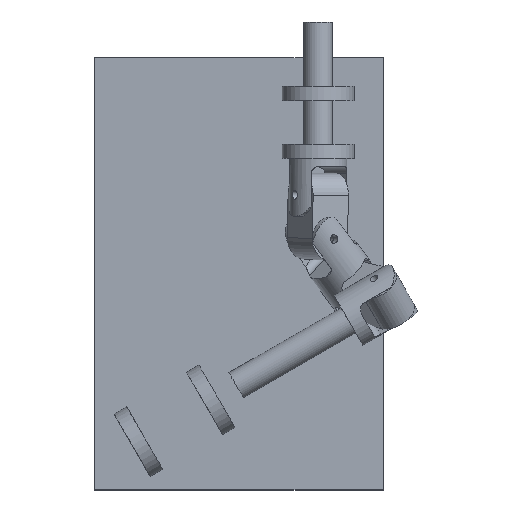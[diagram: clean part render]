
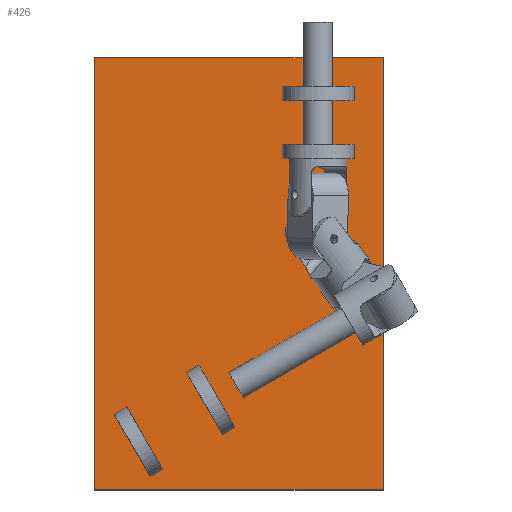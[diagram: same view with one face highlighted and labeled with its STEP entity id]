
A CAD part, top view. The second image highlights one B-rep face of the part: STEP entity #426.
In plain terms, the highlighted planar face has unit normal (0, 0, 1).
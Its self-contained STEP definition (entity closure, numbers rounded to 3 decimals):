
#426=ADVANCED_FACE('',(#625,#627,#629,#631,#633),#635,.T.);
#625=FACE_BOUND('',#626,.T.);
#626=EDGE_LOOP('',(#1500,#1501,#1502,#1503));
#627=FACE_BOUND('',#628,.T.);
#628=EDGE_LOOP('',(#1504,#1505,#1506,#1507));
#629=FACE_BOUND('',#630,.T.);
#630=EDGE_LOOP('',(#1508,#1509,#1510,#1511));
#631=FACE_BOUND('',#632,.T.);
#632=EDGE_LOOP('',(#1512,#1513,#1514,#1515));
#633=FACE_BOUND('',#634,.T.);
#634=EDGE_LOOP('',(#1516,#1517,#1518,#1519));
#635=PLANE('',#636);
#636=AXIS2_PLACEMENT_3D('',#637,#638,#639);
#637=CARTESIAN_POINT('',(0.,0.,20.));
#638=DIRECTION('',(0.,0.,1.));
#639=DIRECTION('',(0.,1.,0.));
#1500=ORIENTED_EDGE('',*,*,#1998,.T.);
#1501=ORIENTED_EDGE('',*,*,#1999,.T.);
#1502=ORIENTED_EDGE('',*,*,#2000,.T.);
#1503=ORIENTED_EDGE('',*,*,#2001,.T.);
#1504=ORIENTED_EDGE('',*,*,#1995,.F.);
#1505=ORIENTED_EDGE('',*,*,#1993,.F.);
#1506=ORIENTED_EDGE('',*,*,#1989,.F.);
#1507=ORIENTED_EDGE('',*,*,#1986,.F.);
#1508=ORIENTED_EDGE('',*,*,#1981,.F.);
#1509=ORIENTED_EDGE('',*,*,#1979,.F.);
#1510=ORIENTED_EDGE('',*,*,#1975,.F.);
#1511=ORIENTED_EDGE('',*,*,#1972,.F.);
#1512=ORIENTED_EDGE('',*,*,#2002,.F.);
#1513=ORIENTED_EDGE('',*,*,#2003,.F.);
#1514=ORIENTED_EDGE('',*,*,#2004,.F.);
#1515=ORIENTED_EDGE('',*,*,#2005,.F.);
#1516=ORIENTED_EDGE('',*,*,#2006,.F.);
#1517=ORIENTED_EDGE('',*,*,#2007,.F.);
#1518=ORIENTED_EDGE('',*,*,#2008,.F.);
#1519=ORIENTED_EDGE('',*,*,#2009,.F.);
#1972=EDGE_CURVE('',#2232,#2234,#2235,.T.);
#1975=EDGE_CURVE('',#2234,#2239,#2240,.T.);
#1979=EDGE_CURVE('',#2239,#2246,#2247,.T.);
#1981=EDGE_CURVE('',#2246,#2232,#2249,.T.);
#1986=EDGE_CURVE('',#2256,#2258,#2259,.T.);
#1989=EDGE_CURVE('',#2258,#2263,#2264,.T.);
#1993=EDGE_CURVE('',#2263,#2270,#2271,.T.);
#1995=EDGE_CURVE('',#2270,#2256,#2273,.T.);
#1998=EDGE_CURVE('',#2277,#2278,#2279,.T.);
#1999=EDGE_CURVE('',#2278,#2280,#2281,.T.);
#2000=EDGE_CURVE('',#2280,#2282,#2283,.T.);
#2001=EDGE_CURVE('',#2282,#2277,#2284,.T.);
#2002=EDGE_CURVE('',#2285,#2286,#2287,.T.);
#2003=EDGE_CURVE('',#2288,#2285,#2289,.T.);
#2004=EDGE_CURVE('',#2290,#2288,#2291,.T.);
#2005=EDGE_CURVE('',#2286,#2290,#2292,.T.);
#2006=EDGE_CURVE('',#2293,#2294,#2295,.T.);
#2007=EDGE_CURVE('',#2296,#2293,#2297,.T.);
#2008=EDGE_CURVE('',#2298,#2296,#2299,.T.);
#2009=EDGE_CURVE('',#2294,#2298,#2300,.T.);
#2232=VERTEX_POINT('',#2676);
#2234=VERTEX_POINT('',#2680);
#2235=LINE('',#2681,#2682);
#2239=VERTEX_POINT('',#2692);
#2240=LINE('',#2693,#2694);
#2246=VERTEX_POINT('',#2708);
#2247=LINE('',#2709,#2710);
#2249=LINE('',#2715,#2716);
#2256=VERTEX_POINT('',#2732);
#2258=VERTEX_POINT('',#2736);
#2259=LINE('',#2737,#2738);
#2263=VERTEX_POINT('',#2748);
#2264=LINE('',#2749,#2750);
#2270=VERTEX_POINT('',#2764);
#2271=LINE('',#2765,#2766);
#2273=LINE('',#2771,#2772);
#2277=VERTEX_POINT('',#2783);
#2278=VERTEX_POINT('',#2784);
#2279=LINE('',#2785,#2786);
#2280=VERTEX_POINT('',#2788);
#2281=LINE('',#2789,#2790);
#2282=VERTEX_POINT('',#2792);
#2283=LINE('',#2793,#2794);
#2284=LINE('',#2796,#2797);
#2285=VERTEX_POINT('',#2799);
#2286=VERTEX_POINT('',#2800);
#2287=LINE('',#2801,#2802);
#2288=VERTEX_POINT('',#2804);
#2289=LINE('',#2805,#2806);
#2290=VERTEX_POINT('',#2808);
#2291=LINE('',#2809,#2810);
#2292=LINE('',#2812,#2813);
#2293=VERTEX_POINT('',#2815);
#2294=VERTEX_POINT('',#2816);
#2295=LINE('',#2817,#2818);
#2296=VERTEX_POINT('',#2820);
#2297=LINE('',#2821,#2822);
#2298=VERTEX_POINT('',#2824);
#2299=LINE('',#2825,#2826);
#2300=LINE('',#2828,#2829);
#2676=CARTESIAN_POINT('',(-149.551,57.651,20.));
#2680=CARTESIAN_POINT('',(-158.212,52.651,20.));
#2681=CARTESIAN_POINT('',(-149.551,57.651,20.));
#2682=VECTOR('',#2683,1.);
#2683=DIRECTION('',(-0.866,-0.5,0.));
#2692=CARTESIAN_POINT('',(-133.212,9.349,20.));
#2693=CARTESIAN_POINT('',(-158.212,52.651,20.));
#2694=VECTOR('',#2695,1.);
#2695=DIRECTION('',(0.5,-0.866,0.));
#2708=CARTESIAN_POINT('',(-124.551,14.349,20.));
#2709=CARTESIAN_POINT('',(-133.212,9.349,20.));
#2710=VECTOR('',#2711,1.);
#2711=DIRECTION('',(0.866,0.5,0.));
#2715=CARTESIAN_POINT('',(-124.551,14.349,20.));
#2716=VECTOR('',#2717,1.);
#2717=DIRECTION('',(-0.5,0.866,0.));
#2732=CARTESIAN_POINT('',(-99.322,86.651,20.));
#2736=CARTESIAN_POINT('',(-107.982,81.651,20.));
#2737=CARTESIAN_POINT('',(-99.322,86.651,20.));
#2738=VECTOR('',#2739,1.);
#2739=DIRECTION('',(-0.866,-0.5,0.));
#2748=CARTESIAN_POINT('',(-82.982,38.349,20.));
#2749=CARTESIAN_POINT('',(-107.982,81.651,20.));
#2750=VECTOR('',#2751,1.);
#2751=DIRECTION('',(0.5,-0.866,0.));
#2764=CARTESIAN_POINT('',(-74.322,43.349,20.));
#2765=CARTESIAN_POINT('',(-82.982,38.349,20.));
#2766=VECTOR('',#2767,1.);
#2767=DIRECTION('',(0.866,0.5,0.));
#2771=CARTESIAN_POINT('',(-74.322,43.349,20.));
#2772=VECTOR('',#2773,1.);
#2773=DIRECTION('',(-0.5,0.866,0.));
#2783=CARTESIAN_POINT('',(28.441,300.,20.));
#2784=CARTESIAN_POINT('',(-171.559,300.,20.));
#2785=CARTESIAN_POINT('',(28.441,300.,20.));
#2786=VECTOR('',#2787,1.);
#2787=DIRECTION('',(-1.,0.,0.));
#2788=CARTESIAN_POINT('',(-171.559,0.,20.));
#2789=CARTESIAN_POINT('',(-171.559,300.,20.));
#2790=VECTOR('',#2791,1.);
#2791=DIRECTION('',(0.,-1.,0.));
#2792=CARTESIAN_POINT('',(28.441,0.,20.));
#2793=CARTESIAN_POINT('',(-171.559,0.,20.));
#2794=VECTOR('',#2795,1.);
#2795=DIRECTION('',(1.,0.,0.));
#2796=CARTESIAN_POINT('',(28.441,0.,20.));
#2797=VECTOR('',#2798,1.);
#2798=DIRECTION('',(0.,1.,0.));
#2799=CARTESIAN_POINT('',(8.441,270.,20.));
#2800=CARTESIAN_POINT('',(8.441,280.,20.));
#2801=CARTESIAN_POINT('',(8.441,270.,20.));
#2802=VECTOR('',#2803,1.);
#2803=DIRECTION('',(0.,1.,0.));
#2804=CARTESIAN_POINT('',(-41.559,270.,20.));
#2805=CARTESIAN_POINT('',(-41.559,270.,20.));
#2806=VECTOR('',#2807,1.);
#2807=DIRECTION('',(1.,0.,0.));
#2808=CARTESIAN_POINT('',(-41.559,280.,20.));
#2809=CARTESIAN_POINT('',(-41.559,280.,20.));
#2810=VECTOR('',#2811,1.);
#2811=DIRECTION('',(0.,-1.,0.));
#2812=CARTESIAN_POINT('',(8.441,280.,20.));
#2813=VECTOR('',#2814,1.);
#2814=DIRECTION('',(-1.,0.,0.));
#2815=CARTESIAN_POINT('',(8.441,230.,20.));
#2816=CARTESIAN_POINT('',(8.441,240.,20.));
#2817=CARTESIAN_POINT('',(8.441,230.,20.));
#2818=VECTOR('',#2819,1.);
#2819=DIRECTION('',(0.,1.,0.));
#2820=CARTESIAN_POINT('',(-41.559,230.,20.));
#2821=CARTESIAN_POINT('',(-41.559,230.,20.));
#2822=VECTOR('',#2823,1.);
#2823=DIRECTION('',(1.,0.,0.));
#2824=CARTESIAN_POINT('',(-41.559,240.,20.));
#2825=CARTESIAN_POINT('',(-41.559,240.,20.));
#2826=VECTOR('',#2827,1.);
#2827=DIRECTION('',(0.,-1.,0.));
#2828=CARTESIAN_POINT('',(8.441,240.,20.));
#2829=VECTOR('',#2830,1.);
#2830=DIRECTION('',(-1.,0.,0.));
